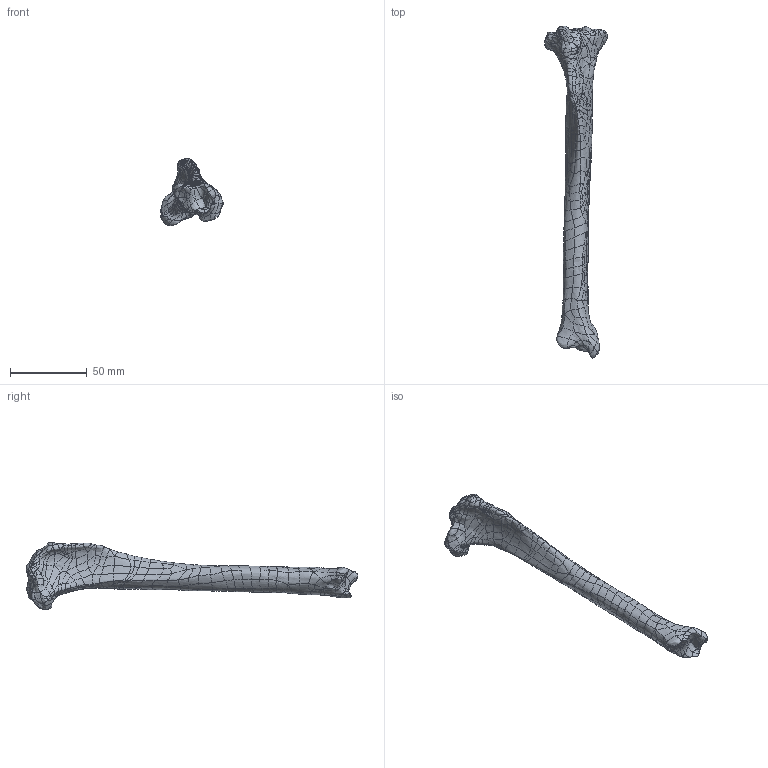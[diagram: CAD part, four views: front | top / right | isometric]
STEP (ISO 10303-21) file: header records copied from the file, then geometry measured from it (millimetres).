
FILE_DESCRIPTION (( 'STEP AP203' ), '1' );
FILE_NAME ('2117-19.STEP', '2026-09-15T15:45:17', ( '' ), ( '' ), 'SwSTEP 2.0', 'SolidWorks 2024', '' );
FILE_SCHEMA (( 'CONFIG_CONTROL_DESIGN' ));
Products named in the file (1): 2117-19
Bounding box: 40.76 x 216.44 x 43.78 mm (x, y, z)
Volume: 59019.1 mm3; surface area: 15179.6 mm2
Topology: 1 solids, 1 shells, 1098 faces, 2381 edges, 1289 vertices
Faces by surface type: bspline 1097, plane 1
Entity records: 370919 total; most frequent: CARTESIAN_POINT 355619, ORIENTED_EDGE 4762, B_SPLINE_CURVE_WITH_KNOTS 2381, EDGE_CURVE 2381, VERTEX_POINT 1289, EDGE_LOOP 1102, ADVANCED_FACE 1098, FACE_OUTER_BOUND 1098
